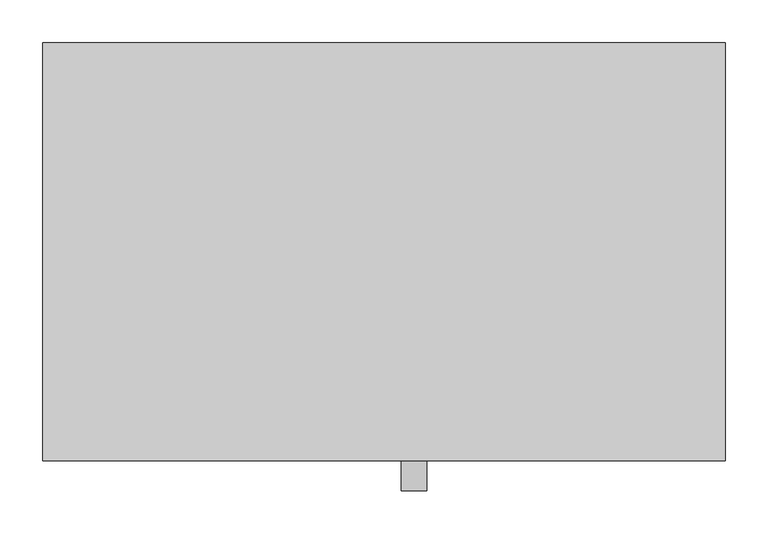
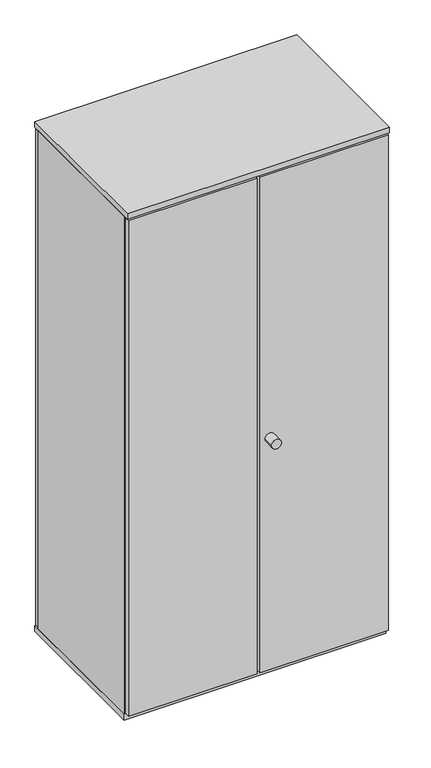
"""IFC4 building model written with IfcOpenShell, lengths in millimetres: furniture geometry, Grid Lockers - 2 Door Complimentary : GRID TWO DOOR CABINET 800mm(w) x 490mm(d) x 1654mm(h)."""

from ifc_helpers import new_model, si_unit, point, frame, frame_2d, origin, origin_with_axes, place, context, project, spatial, polyline, circle_curve, trimmed, segment, composite_curve, outline, extrude, source, transform, mapped, element, save


def furniture_86e59bc6(model_context):
    return source(origin(), model_context, "Body", "SweptSolid", [
        extrude(outline(composite_curve([segment(trimmed(circle_curve(frame_2d((750.0, -50.0)), 15.0), [point((735.0, -50.0))], [point((765.0, -50.0))], False, "CARTESIAN"), True, "CONTINUOUS"), segment(trimmed(circle_curve(frame_2d((750.0, -50.0)), 15.0), [point((765.0, -50.0))], [point((735.0, -50.0))], False, "CARTESIAN"), True, "CONTINUOUS")], self_intersect=False)), origin_with_axes(), (0.0, 0.0, 1.0), 10.0),
        extrude(outline(composite_curve([segment(trimmed(circle_curve(frame_2d((50.0, -50.0)), 15.0), [point((35.0, -50.0))], [point((65.0, -50.0))], False, "CARTESIAN"), True, "CONTINUOUS"), segment(trimmed(circle_curve(frame_2d((50.0, -50.0)), 15.0), [point((65.0, -50.0))], [point((35.0, -50.0))], False, "CARTESIAN"), True, "CONTINUOUS")], self_intersect=False)), origin_with_axes(), (0.0, 0.0, 1.0), 10.0),
        extrude(outline(composite_curve([segment(trimmed(circle_curve(frame_2d((50.0, -440.0)), 15.0), [point((35.0, -440.0))], [point((65.0, -440.0))], False, "CARTESIAN"), True, "CONTINUOUS"), segment(trimmed(circle_curve(frame_2d((50.0, -440.0)), 15.0), [point((65.0, -440.0))], [point((35.0, -440.0))], False, "CARTESIAN"), True, "CONTINUOUS")], self_intersect=False)), origin_with_axes(), (0.0, 0.0, 1.0), 10.0),
        extrude(outline(composite_curve([segment(trimmed(circle_curve(frame_2d((750.0, -440.0)), 15.0), [point((735.0, -440.0))], [point((765.0, -440.0))], False, "CARTESIAN"), True, "CONTINUOUS"), segment(trimmed(circle_curve(frame_2d((750.0, -440.0)), 15.0), [point((765.0, -440.0))], [point((735.0, -440.0))], False, "CARTESIAN"), True, "CONTINUOUS")], self_intersect=False)), origin_with_axes(), (0.0, 0.0, 1.0), 10.0),
        extrude(outline(polyline([(800.0, -472.0), (0.0, -472.0), (0.0, 0.0), (800.0, 0.0), (800.0, -472.0)])), frame((0.0, 0.0, 10.0), z_axis=(0.0, 0.0, 1.0), x_axis=(1.0, 0.0, 0.0)), (0.0, 0.0, 1.0), 18.0),
        extrude(outline(polyline([(800.0, -490.0), (0.0, -490.0), (0.0, 0.0), (800.0, 0.0), (800.0, -490.0)])), frame((0.0, 0.0, 1636.0), z_axis=(0.0, 0.0, 1.0), x_axis=(1.0, 0.0, 0.0)), (0.0, 0.0, 1.0), 18.0),
        extrude(outline(composite_curve([segment(trimmed(circle_curve(frame_2d((780.0, 435.0)), 15.0), [point((780.0, 420.0))], [point((780.0, 450.0))], False, "CARTESIAN"), True, "CONTINUOUS"), segment(trimmed(circle_curve(frame_2d((780.0, 435.0)), 15.0), [point((780.0, 450.0))], [point((780.0, 420.0))], False, "CARTESIAN"), True, "CONTINUOUS")], self_intersect=False)), frame((0.0, -525.0, 0.0), z_axis=(0.0, 1.0, 0.0), x_axis=(0.0, 0.0, 1.0)), (0.0, 0.0, 1.0), 35.0),
        extrude(outline(polyline([(1636.0, 800.0), (1636.0, 0.0), (28.0, 0.0), (28.0, 3.0), (1611.0, 3.0), (1611.0, 797.0), (28.0, 797.0), (28.0, 800.0), (1636.0, 800.0)])), frame((0.0, -472.0, 0.0), z_axis=(0.0, 1.0, 0.0), x_axis=(0.0, 0.0, 1.0)), (0.0, 0.0, 1.0), 454.0),
        extrude(outline(polyline([(395.0, -472.0), (395.0, -490.0), (3.0, -490.0), (3.0, -472.0), (395.0, -472.0)])), frame((0.0, 0.0, 32.0), z_axis=(0.0, 0.0, 1.0), x_axis=(1.0, 0.0, 0.0)), (0.0, 0.0, 1.0), 1598.0),
        extrude(outline(polyline([(797.0, -490.0), (405.0, -490.0), (405.0, -472.0), (797.0, -472.0), (797.0, -490.0)])), frame((0.0, 0.0, 32.0), z_axis=(0.0, 0.0, 1.0), x_axis=(1.0, 0.0, 0.0)), (0.0, 0.0, 1.0), 1598.0),
        extrude(outline(polyline([(797.0, 0.0), (797.0, -18.0), (3.0, -18.0), (3.0, 0.0), (797.0, 0.0)])), frame((0.0, 0.0, 18.0), z_axis=(0.0, 0.0, 1.0), x_axis=(1.0, 0.0, 0.0)), (0.0, 0.0, 1.0), 1612.0),
    ])


if __name__ == "__main__":
    model = new_model("IFC4")
    model_context = context("Model", 3, world=origin())
    ifc_project = project(units=[si_unit("LENGTHUNIT", "METRE", prefix="MILLI")], contexts=[model_context])
    site = spatial("IfcSite", under=ifc_project)
    building = spatial("IfcBuilding", under=site)
    placement = place(None, origin())
    furniture_shape = furniture_86e59bc6(model_context)
    element("IfcFurniture", 1, ObjectType="Grid Lockers - 2 Door Complimentary : GRID TWO DOOR CABINET 800mm(w) x 490mm(d) x 1654mm(h)", at=placement, inside=building, context=model_context, shape_type="MappedRepresentation", body=[
        mapped(furniture_shape, transform((0.0, 0.0, 0.0), x_axis=(1.0, 0.0, 0.0), y_axis=(0.0, 1.0, 0.0), z_axis=(0.0, 0.0, 1.0))),
    ])
    save(model, "model.ifc")
